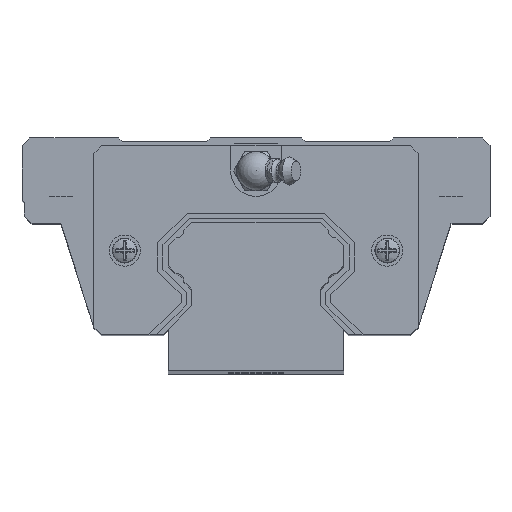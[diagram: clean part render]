
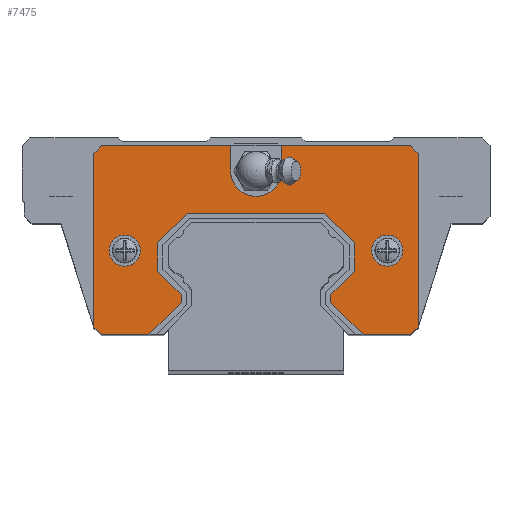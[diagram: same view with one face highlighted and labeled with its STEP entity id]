
A CAD part, top view. The second image highlights one B-rep face of the part: STEP entity #7475.
In plain terms, the highlighted planar face has unit normal (0, 0, 1).
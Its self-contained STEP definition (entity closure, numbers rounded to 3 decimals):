
#586=LINE('',#12043,#1378);
#590=LINE('',#12051,#1382);
#591=LINE('',#12053,#1383);
#592=LINE('',#12055,#1384);
#593=LINE('',#12057,#1385);
#594=LINE('',#12059,#1386);
#595=LINE('',#12061,#1387);
#596=LINE('',#12063,#1388);
#597=LINE('',#12065,#1389);
#598=LINE('',#12067,#1390);
#599=LINE('',#12069,#1391);
#600=LINE('',#12071,#1392);
#601=LINE('',#12073,#1393);
#602=LINE('',#12075,#1394);
#603=LINE('',#12077,#1395);
#604=LINE('',#12079,#1396);
#605=LINE('',#12081,#1397);
#606=LINE('',#12083,#1398);
#607=LINE('',#12087,#1399);
#608=LINE('',#12089,#1400);
#609=LINE('',#12091,#1401);
#610=LINE('',#12093,#1402);
#611=LINE('',#12094,#1403);
#1378=VECTOR('',#9784,1000.);
#1382=VECTOR('',#9790,1000.);
#1383=VECTOR('',#9791,1000.);
#1384=VECTOR('',#9792,1000.);
#1385=VECTOR('',#9793,1000.);
#1386=VECTOR('',#9794,1000.);
#1387=VECTOR('',#9795,1000.);
#1388=VECTOR('',#9796,1000.);
#1389=VECTOR('',#9797,1000.);
#1390=VECTOR('',#9798,1000.);
#1391=VECTOR('',#9799,1000.);
#1392=VECTOR('',#9800,1000.);
#1393=VECTOR('',#9801,1000.);
#1394=VECTOR('',#9802,1000.);
#1395=VECTOR('',#9803,1000.);
#1396=VECTOR('',#9804,1000.);
#1397=VECTOR('',#9805,1000.);
#1398=VECTOR('',#9806,1000.);
#1399=VECTOR('',#9809,1000.);
#1400=VECTOR('',#9810,1000.);
#1401=VECTOR('',#9811,1000.);
#1402=VECTOR('',#9812,1000.);
#1403=VECTOR('',#9813,1000.);
#1851=PLANE('',#8131);
#2133=FACE_BOUND('',#2951,.T.);
#2134=FACE_BOUND('',#2952,.T.);
#2460=FACE_OUTER_BOUND('',#2950,.T.);
#2950=EDGE_LOOP('',(#6540,#6541,#6542,#6543,#6544,#6545,#6546,#6547,#6548,
#6549,#6550,#6551,#6552,#6553,#6554,#6555,#6556,#6557,#6558,#6559,#6560,
#6561,#6562,#6563));
#2951=EDGE_LOOP('',(#6564));
#2952=EDGE_LOOP('',(#6565));
#3259=CIRCLE('',#8108,3.99);
#3261=CIRCLE('',#8111,3.99);
#3277=CIRCLE('',#8132,6.5);
#3819=VERTEX_POINT('',#11992);
#3821=VERTEX_POINT('',#11997);
#3841=VERTEX_POINT('',#12040);
#3842=VERTEX_POINT('',#12042);
#3845=VERTEX_POINT('',#12050);
#3846=VERTEX_POINT('',#12052);
#3847=VERTEX_POINT('',#12054);
#3848=VERTEX_POINT('',#12056);
#3849=VERTEX_POINT('',#12058);
#3850=VERTEX_POINT('',#12060);
#3851=VERTEX_POINT('',#12062);
#3852=VERTEX_POINT('',#12064);
#3853=VERTEX_POINT('',#12066);
#3854=VERTEX_POINT('',#12068);
#3855=VERTEX_POINT('',#12070);
#3856=VERTEX_POINT('',#12072);
#3857=VERTEX_POINT('',#12074);
#3858=VERTEX_POINT('',#12076);
#3859=VERTEX_POINT('',#12078);
#3860=VERTEX_POINT('',#12080);
#3861=VERTEX_POINT('',#12082);
#3862=VERTEX_POINT('',#12084);
#3863=VERTEX_POINT('',#12086);
#3864=VERTEX_POINT('',#12088);
#3865=VERTEX_POINT('',#12090);
#3866=VERTEX_POINT('',#12092);
#4760=EDGE_CURVE('',#3819,#3819,#3259,.T.);
#4762=EDGE_CURVE('',#3821,#3821,#3261,.T.);
#4782=EDGE_CURVE('',#3842,#3841,#586,.T.);
#4786=EDGE_CURVE('',#3841,#3845,#590,.T.);
#4787=EDGE_CURVE('',#3845,#3846,#591,.T.);
#4788=EDGE_CURVE('',#3846,#3847,#592,.T.);
#4789=EDGE_CURVE('',#3847,#3848,#593,.T.);
#4790=EDGE_CURVE('',#3848,#3849,#594,.T.);
#4791=EDGE_CURVE('',#3849,#3850,#595,.T.);
#4792=EDGE_CURVE('',#3850,#3851,#596,.T.);
#4793=EDGE_CURVE('',#3851,#3852,#597,.T.);
#4794=EDGE_CURVE('',#3852,#3853,#598,.T.);
#4795=EDGE_CURVE('',#3853,#3854,#599,.T.);
#4796=EDGE_CURVE('',#3854,#3855,#600,.T.);
#4797=EDGE_CURVE('',#3855,#3856,#601,.T.);
#4798=EDGE_CURVE('',#3856,#3857,#602,.T.);
#4799=EDGE_CURVE('',#3857,#3858,#603,.T.);
#4800=EDGE_CURVE('',#3858,#3859,#604,.T.);
#4801=EDGE_CURVE('',#3859,#3860,#605,.T.);
#4802=EDGE_CURVE('',#3860,#3861,#606,.T.);
#4803=EDGE_CURVE('',#3861,#3862,#3277,.T.);
#4804=EDGE_CURVE('',#3862,#3863,#607,.T.);
#4805=EDGE_CURVE('',#3863,#3864,#608,.T.);
#4806=EDGE_CURVE('',#3864,#3865,#609,.T.);
#4807=EDGE_CURVE('',#3865,#3866,#610,.T.);
#4808=EDGE_CURVE('',#3866,#3842,#611,.T.);
#6540=ORIENTED_EDGE('',*,*,#4786,.T.);
#6541=ORIENTED_EDGE('',*,*,#4787,.T.);
#6542=ORIENTED_EDGE('',*,*,#4788,.T.);
#6543=ORIENTED_EDGE('',*,*,#4789,.T.);
#6544=ORIENTED_EDGE('',*,*,#4790,.T.);
#6545=ORIENTED_EDGE('',*,*,#4791,.T.);
#6546=ORIENTED_EDGE('',*,*,#4792,.T.);
#6547=ORIENTED_EDGE('',*,*,#4793,.T.);
#6548=ORIENTED_EDGE('',*,*,#4794,.T.);
#6549=ORIENTED_EDGE('',*,*,#4795,.T.);
#6550=ORIENTED_EDGE('',*,*,#4796,.T.);
#6551=ORIENTED_EDGE('',*,*,#4797,.T.);
#6552=ORIENTED_EDGE('',*,*,#4798,.T.);
#6553=ORIENTED_EDGE('',*,*,#4799,.T.);
#6554=ORIENTED_EDGE('',*,*,#4800,.T.);
#6555=ORIENTED_EDGE('',*,*,#4801,.T.);
#6556=ORIENTED_EDGE('',*,*,#4802,.T.);
#6557=ORIENTED_EDGE('',*,*,#4803,.T.);
#6558=ORIENTED_EDGE('',*,*,#4804,.T.);
#6559=ORIENTED_EDGE('',*,*,#4805,.T.);
#6560=ORIENTED_EDGE('',*,*,#4806,.T.);
#6561=ORIENTED_EDGE('',*,*,#4807,.T.);
#6562=ORIENTED_EDGE('',*,*,#4808,.T.);
#6563=ORIENTED_EDGE('',*,*,#4782,.T.);
#6564=ORIENTED_EDGE('',*,*,#4762,.T.);
#6565=ORIENTED_EDGE('',*,*,#4760,.F.);
#7475=ADVANCED_FACE('',(#2460,#2133,#2134),#1851,.F.);
#8108=AXIS2_PLACEMENT_3D('',#11993,#9734,#9735);
#8111=AXIS2_PLACEMENT_3D('',#11998,#9740,#9741);
#8131=AXIS2_PLACEMENT_3D('',#12049,#9788,#9789);
#8132=AXIS2_PLACEMENT_3D('',#12085,#9807,#9808);
#9734=DIRECTION('center_axis',(0.,0.,1.));
#9735=DIRECTION('ref_axis',(1.,0.,0.));
#9740=DIRECTION('center_axis',(0.,0.,-1.));
#9741=DIRECTION('ref_axis',(-1.,0.,0.));
#9784=DIRECTION('',(1.,0.,0.));
#9788=DIRECTION('center_axis',(0.,0.,-1.));
#9789=DIRECTION('ref_axis',(-1.,0.,0.));
#9790=DIRECTION('',(0.707,0.707,0.));
#9791=DIRECTION('',(0.,1.,0.));
#9792=DIRECTION('',(-0.707,0.707,0.));
#9793=DIRECTION('',(0.,1.,0.));
#9794=DIRECTION('',(0.707,0.707,0.));
#9795=DIRECTION('',(1.,0.,0.));
#9796=DIRECTION('',(0.707,-0.707,0.));
#9797=DIRECTION('',(0.,-1.,0.));
#9798=DIRECTION('',(-0.707,-0.707,0.));
#9799=DIRECTION('',(0.,-1.,0.));
#9800=DIRECTION('',(0.707,-0.707,0.));
#9801=DIRECTION('',(1.,0.,0.));
#9802=DIRECTION('',(0.707,0.707,0.));
#9803=DIRECTION('',(0.,1.,0.));
#9804=DIRECTION('',(-0.707,0.707,0.));
#9805=DIRECTION('',(-1.,0.,0.));
#9806=DIRECTION('',(0.,-1.,0.));
#9807=DIRECTION('center_axis',(0.,0.,-1.));
#9808=DIRECTION('ref_axis',(-1.,0.,0.));
#9809=DIRECTION('',(0.,1.,0.));
#9810=DIRECTION('',(-1.,0.,0.));
#9811=DIRECTION('',(-0.707,-0.707,0.));
#9812=DIRECTION('',(0.,-1.,0.));
#9813=DIRECTION('',(0.707,-0.707,0.));
#11992=CARTESIAN_POINT('',(-29.67,21.6,68.7));
#11993=CARTESIAN_POINT('Origin',(-33.66,21.6,68.7));
#11997=CARTESIAN_POINT('',(37.65,21.6,68.7));
#11998=CARTESIAN_POINT('Origin',(33.66,21.6,68.7));
#12040=CARTESIAN_POINT('',(-27.443,0.,68.7));
#12042=CARTESIAN_POINT('',(-39.6,0.,68.7));
#12043=CARTESIAN_POINT('',(-39.6,0.,68.7));
#12049=CARTESIAN_POINT('Origin',(0.,-39.6,
68.7));
#12050=CARTESIAN_POINT('',(-19.215,8.228,68.7));
#12051=CARTESIAN_POINT('',(-27.443,0.,68.7));
#12052=CARTESIAN_POINT('',(-19.215,10.282,68.7));
#12053=CARTESIAN_POINT('',(-19.215,8.228,68.7));
#12054=CARTESIAN_POINT('',(-25.2,16.267,68.7));
#12055=CARTESIAN_POINT('',(-19.215,10.282,68.7));
#12056=CARTESIAN_POINT('',(-25.2,23.633,68.7));
#12057=CARTESIAN_POINT('',(-25.2,16.267,68.7));
#12058=CARTESIAN_POINT('',(-17.633,31.2,68.7));
#12059=CARTESIAN_POINT('',(-25.2,23.633,68.7));
#12060=CARTESIAN_POINT('',(17.633,31.2,68.7));
#12061=CARTESIAN_POINT('',(-17.633,31.2,68.7));
#12062=CARTESIAN_POINT('',(25.2,23.633,68.7));
#12063=CARTESIAN_POINT('',(25.2,23.633,68.7));
#12064=CARTESIAN_POINT('',(25.2,16.267,68.7));
#12065=CARTESIAN_POINT('',(25.2,16.267,68.7));
#12066=CARTESIAN_POINT('',(19.215,10.282,68.7));
#12067=CARTESIAN_POINT('',(19.215,10.282,68.7));
#12068=CARTESIAN_POINT('',(19.215,8.228,68.7));
#12069=CARTESIAN_POINT('',(19.215,8.228,68.7));
#12070=CARTESIAN_POINT('',(27.443,0.,68.7));
#12071=CARTESIAN_POINT('',(27.443,0.,68.7));
#12072=CARTESIAN_POINT('',(39.6,0.,68.7));
#12073=CARTESIAN_POINT('',(-39.6,0.,68.7));
#12074=CARTESIAN_POINT('',(41.58,1.98,68.7));
#12075=CARTESIAN_POINT('',(41.58,1.98,68.7));
#12076=CARTESIAN_POINT('',(41.58,46.5,68.7));
#12077=CARTESIAN_POINT('',(41.58,1.98,68.7));
#12078=CARTESIAN_POINT('',(39.6,48.48,68.7));
#12079=CARTESIAN_POINT('',(41.58,46.5,68.7));
#12080=CARTESIAN_POINT('',(6.5,48.48,68.7));
#12081=CARTESIAN_POINT('',(-39.6,48.48,68.7));
#12082=CARTESIAN_POINT('',(6.5,42.,68.7));
#12083=CARTESIAN_POINT('',(6.5,42.,68.7));
#12084=CARTESIAN_POINT('',(-6.5,42.,68.7));
#12085=CARTESIAN_POINT('Origin',(0.,42.,68.7));
#12086=CARTESIAN_POINT('',(-6.5,48.48,68.7));
#12087=CARTESIAN_POINT('',(-6.5,48.48,68.7));
#12088=CARTESIAN_POINT('',(-39.6,48.48,68.7));
#12089=CARTESIAN_POINT('',(-39.6,48.48,68.7));
#12090=CARTESIAN_POINT('',(-41.58,46.5,68.7));
#12091=CARTESIAN_POINT('',(-41.58,46.5,68.7));
#12092=CARTESIAN_POINT('',(-41.58,1.98,68.7));
#12093=CARTESIAN_POINT('',(-41.58,1.98,68.7));
#12094=CARTESIAN_POINT('',(-41.58,1.98,68.7));
